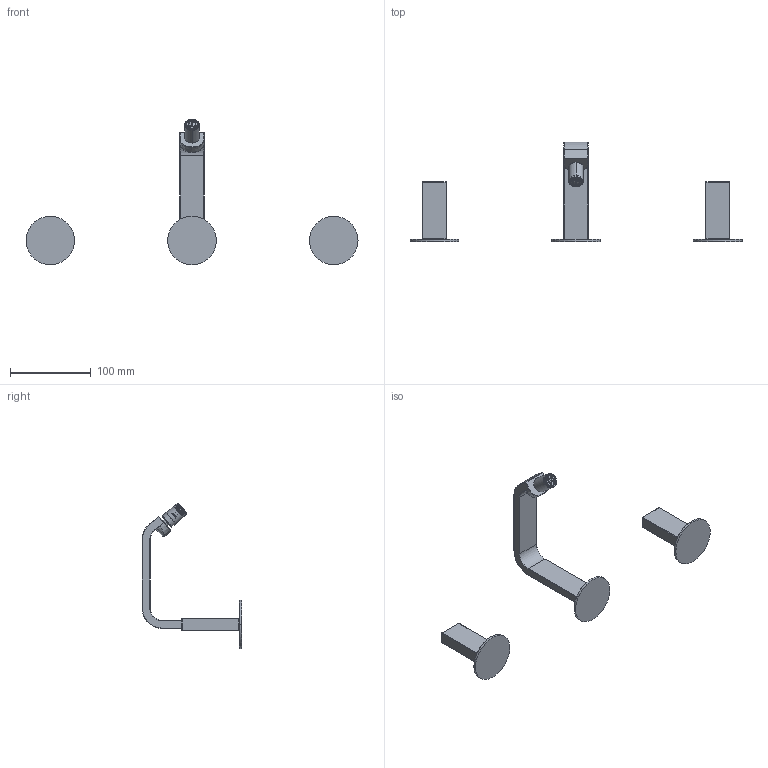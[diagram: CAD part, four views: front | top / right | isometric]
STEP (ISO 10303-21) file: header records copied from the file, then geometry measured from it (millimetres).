
FILE_DESCRIPTION((''),'2;1');
FILE_NAME('53104_SW0001','2020-09-17T10:33:49',('carloff'),(''),'CREO PARAMETRIC BY PTC INC, 2018100','CREO PARAMETRIC BY PTC INC, 2018100','');
FILE_SCHEMA(('CONFIG_CONTROL_DESIGN'));
Products named in the file (1): 53104_SW0001
Bounding box: 410 x 123 x 179.91 mm (x, y, z)
Volume: 160732.4 mm3; surface area: 63492.4 mm2
Topology: 5 solids, 9 shells, 2000 faces, 5820 edges, 3844 vertices
Faces by surface type: plane 1525, cylinder 221, torus 130, bspline 83, cone 22, sphere 19
Entity records: 79607 total; most frequent: CARTESIAN_POINT 30333, ORIENTED_EDGE 11612, DIRECTION 8129, EDGE_CURVE 5806, VERTEX_POINT 3844, AXIS2_PLACEMENT_3D 2756, VECTOR 2617, LINE 2617
